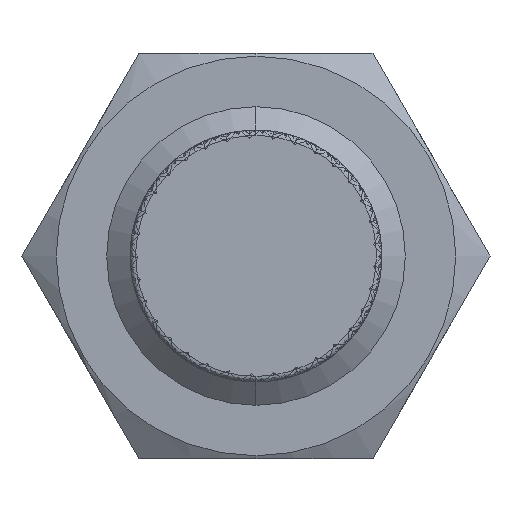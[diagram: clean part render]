
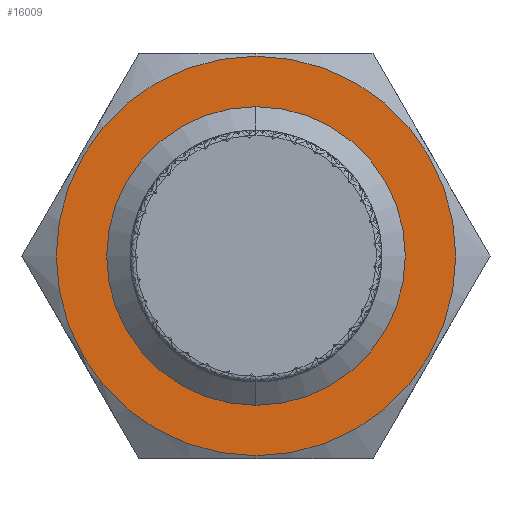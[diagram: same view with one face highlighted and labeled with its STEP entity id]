
A CAD part, left-side view. The second image highlights one B-rep face of the part: STEP entity #16009.
In plain terms, the highlighted planar face has unit normal (-1, 0, 0).
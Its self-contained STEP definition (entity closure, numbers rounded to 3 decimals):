
#574 = CARTESIAN_POINT ( 'NONE',  ( 17.6, 0., 0. ) ) ;
#3732 = CARTESIAN_POINT ( 'NONE',  ( 17.6, 0., 0. ) ) ;
#4627 = EDGE_CURVE ( 'NONE', #60588, #36236, #24142, .T. ) ;
#7285 = AXIS2_PLACEMENT_3D ( 'NONE', #31746, #7302, #31955 ) ;
#7302 = DIRECTION ( 'NONE',  ( -1., 0., 0. ) ) ;
#8906 = FACE_OUTER_BOUND ( 'NONE', #29101, .T. ) ;
#9288 = CARTESIAN_POINT ( 'NONE',  ( 17.6, 9.749, -9.749 ) ) ;
#9539 = ORIENTED_EDGE ( 'NONE', *, *, #4627, .T. ) ;
#10141 = AXIS2_PLACEMENT_3D ( 'NONE', #22175, #31811, #32216 ) ;
#10913 = CARTESIAN_POINT ( 'NONE',  ( 17.6, 0., 6.425 ) ) ;
#11134 = ORIENTED_EDGE ( 'NONE', *, *, #62889, .T. ) ;
#13720 = ORIENTED_EDGE ( 'NONE', *, *, #54228, .T. ) ;
#16009 = ADVANCED_FACE ( 'NONE', ( #8906, #33413 ), #62246, .T. ) ;
#17015 = AXIS2_PLACEMENT_3D ( 'NONE', #9288, #23623, #43612 ) ;
#17953 = EDGE_CURVE ( 'NONE', #32002, #48333, #20903, .T. ) ;
#18292 = AXIS2_PLACEMENT_3D ( 'NONE', #3732, #53118, #62465 ) ;
#20114 = DIRECTION ( 'NONE',  ( 1., 0., 0. ) ) ;
#20903 = CIRCLE ( 'NONE', #7285, 9.362 ) ;
#22175 = CARTESIAN_POINT ( 'NONE',  ( 17.6, 0., 0. ) ) ;
#23623 = DIRECTION ( 'NONE',  ( -1., 0., 0. ) ) ;
#24142 = CIRCLE ( 'NONE', #10141, 6.425 ) ;
#26291 = AXIS2_PLACEMENT_3D ( 'NONE', #574, #20114, #55115 ) ;
#27914 = EDGE_LOOP ( 'NONE', ( #11134, #9539 ) ) ;
#28853 = ORIENTED_EDGE ( 'NONE', *, *, #17953, .T. ) ;
#29101 = EDGE_LOOP ( 'NONE', ( #28853, #13720 ) ) ;
#31746 = CARTESIAN_POINT ( 'NONE',  ( 17.6, 0., 0. ) ) ;
#31811 = DIRECTION ( 'NONE',  ( 1., 0., 0. ) ) ;
#31955 = DIRECTION ( 'NONE',  ( 0., 0., -1. ) ) ;
#32002 = VERTEX_POINT ( 'NONE', #43922 ) ;
#32216 = DIRECTION ( 'NONE',  ( 0., 0., 1. ) ) ;
#33413 = FACE_BOUND ( 'NONE', #27914, .T. ) ;
#36236 = VERTEX_POINT ( 'NONE', #10913 ) ;
#39204 = CIRCLE ( 'NONE', #18292, 9.362 ) ;
#43612 = DIRECTION ( 'NONE',  ( 0., 0., 1. ) ) ;
#43922 = CARTESIAN_POINT ( 'NONE',  ( 17.6, 0., -9.362 ) ) ;
#48333 = VERTEX_POINT ( 'NONE', #52426 ) ;
#49339 = CIRCLE ( 'NONE', #26291, 6.425 ) ;
#52426 = CARTESIAN_POINT ( 'NONE',  ( 17.6, 0., 9.362 ) ) ;
#53118 = DIRECTION ( 'NONE',  ( -1., 0., 0. ) ) ;
#54228 = EDGE_CURVE ( 'NONE', #48333, #32002, #39204, .T. ) ;
#55115 = DIRECTION ( 'NONE',  ( 0., 0., 1. ) ) ;
#56118 = CARTESIAN_POINT ( 'NONE',  ( 17.6, 0., -6.425 ) ) ;
#60588 = VERTEX_POINT ( 'NONE', #56118 ) ;
#62246 = PLANE ( 'NONE',  #17015 ) ;
#62465 = DIRECTION ( 'NONE',  ( 0., 0., -1. ) ) ;
#62889 = EDGE_CURVE ( 'NONE', #36236, #60588, #49339, .T. ) ;
